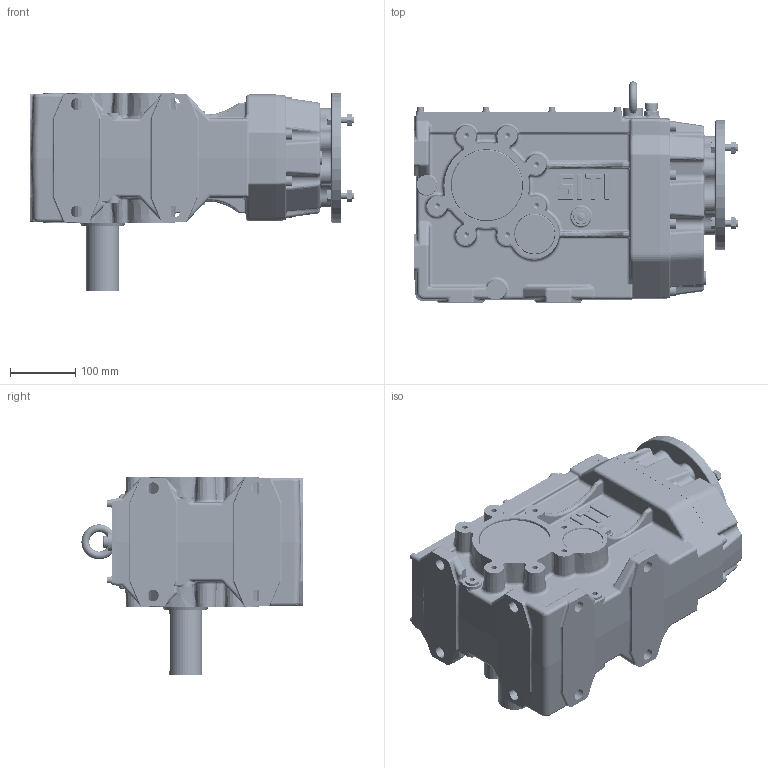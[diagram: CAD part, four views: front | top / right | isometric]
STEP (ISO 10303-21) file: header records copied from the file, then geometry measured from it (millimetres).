
FILE_DESCRIPTION((''),'2;1');
FILE_NAME('C:\Users\m.piscopiello.SITIRIDUTTORI\Desktop\3D x SITO\MBH 100 PAM 80\MBH_100 MS-A PAM 80.stp','2013-05-02T14:49:08',('m.piscopiello'),(''),'Autodesk Inventor 2012','Autodesk Inventor 2012','');
FILE_SCHEMA(('CONFIG_CONTROL_DESIGN'));
Length unit declared in the file: millimetre
Products named in the file (1): MBH_100 MS-A PAM 80
Bounding box: 498.5 x 340 x 305 mm (x, y, z)
Volume: 7020310.4 mm3; surface area: 1388307.4 mm2
Topology: 61 solids, 63 shells, 3824 faces, 8962 edges, 5323 vertices
Faces by surface type: cylinder 1226, plane 1138, bspline 553, torus 386, cone 287, sphere 234
Full cylindrical faces by diameter (mm): 4.917 x8, 6 x16, 6.4 x8, 6.647 x8, 7 x8, 8 x8, 8.376 x22, 9 x8, 10 x32, 10.106 x3, 11 x14, 12 x9, 12.5 x8, 13 x8, 13.835 x1, 14 x8, 14.63 x4, 14.95 x1, 16 x9, 16.6 x7, 17 x1, 18 x8, 19 x1, 19.05 x1, 19.5 x1, 20 x1, 26 x1, 30 x5, 37.5 x1, 39.37 x1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
Entity records: 128337 total; most frequent: CARTESIAN_POINT 42449, DIRECTION 17336, ORIENTED_EDGE 16208, EDGE_CURVE 8104, AXIS2_PLACEMENT_3D 7190, VERTEX_POINT 5076, EDGE_LOOP 4581, STYLED_ITEM 3882
